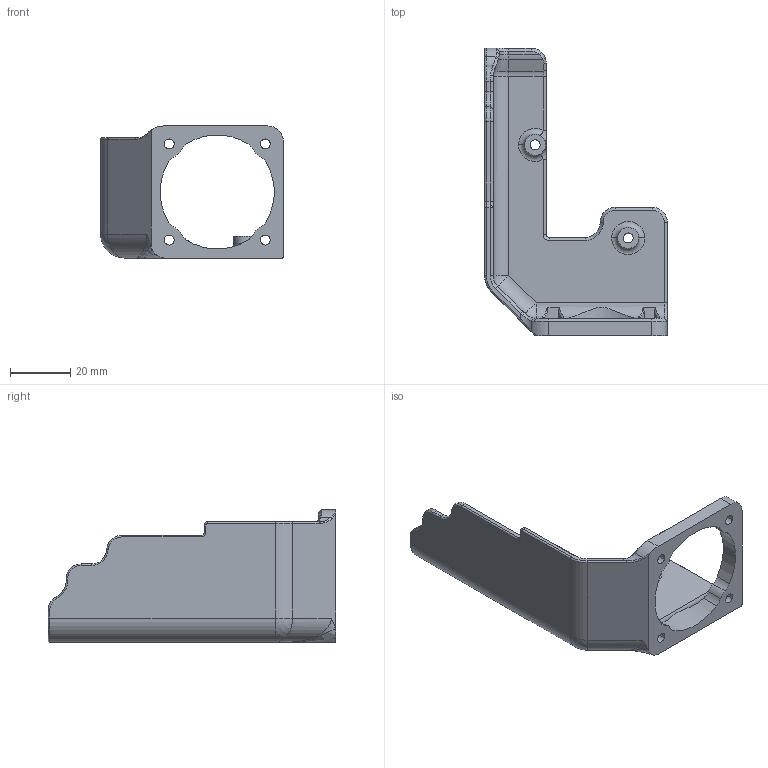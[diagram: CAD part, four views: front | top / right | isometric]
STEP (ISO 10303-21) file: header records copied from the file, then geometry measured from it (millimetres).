
FILE_DESCRIPTION(('CATIA V5 STEP Exchange'),'2;1');
FILE_NAME('E:\Dropbox\3D Printer Fan Duct Designs\1.) Artillery Sidewinder X1\3D Models\5015 Double Ducts\VOLCANO\BONUS_CLIP_DOUBLE FAN\COVER_MOTOR_DOUBLE-FAN\Cover Motor With Fan Nut.stp','2022-01-08T19:48:05+00:00',('none'),('none'),'CATIA Version 5 Release 20 SP 1 (IN-10)','CATIA V5 STEP AP214','none');
FILE_SCHEMA(('AUTOMOTIVE_DESIGN { 1 0 10303 214 1 1 1 1 }'));
Length unit declared in the file: millimetre
Products named in the file (1): COVER_MOTORE_ESTRUSORE
Bounding box: 60.8 x 95.8 x 44 mm (x, y, z)
Volume: 21557.5 mm3; surface area: 16285.4 mm2
Topology: 1 solids, 1 shells, 311 faces, 790 edges, 483 vertices
Faces by surface type: plane 142, cylinder 86, bspline 28, torus 21, cone 18, extrusion 11, sphere 5
Entity records: 11706 total; most frequent: CARTESIAN_POINT 4774, ORIENTED_EDGE 1568, DIRECTION 1131, EDGE_CURVE 784, VERTEX_POINT 483, AXIS2_PLACEMENT_3D 445, VECTOR 434, LINE 423
